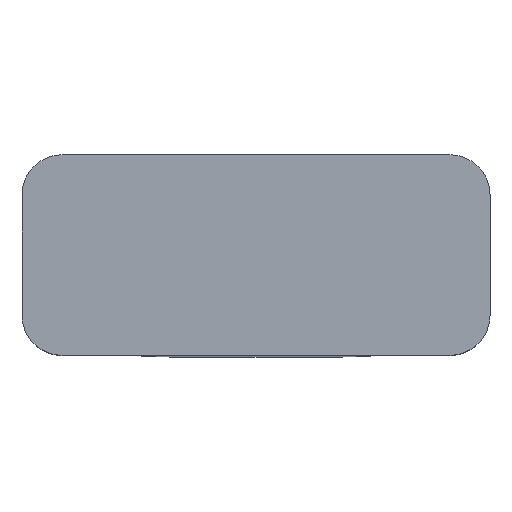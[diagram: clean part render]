
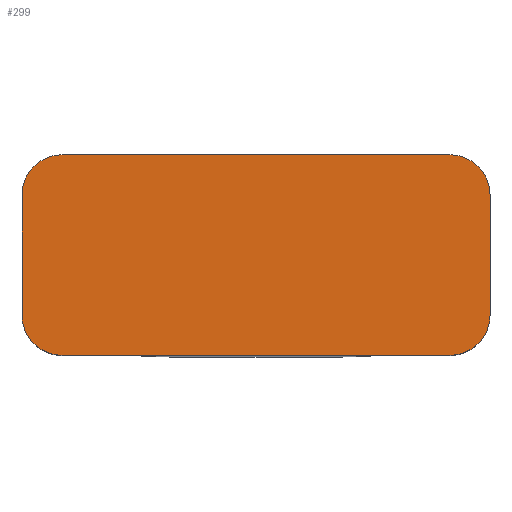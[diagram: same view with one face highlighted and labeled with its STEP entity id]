
A CAD part, top view. The second image highlights one B-rep face of the part: STEP entity #299.
In plain terms, the highlighted planar face has unit normal (0, 0, 1).
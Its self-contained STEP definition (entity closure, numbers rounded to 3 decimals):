
#21 = EDGE_CURVE('',#22,#24,#26,.T.);
#22 = VERTEX_POINT('',#23);
#23 = CARTESIAN_POINT('',(-15.3,-37.9,20.4));
#24 = VERTEX_POINT('',#25);
#25 = CARTESIAN_POINT('',(-21.1,-37.9,20.4));
#26 = SURFACE_CURVE('',#27,(#31,#43),.PCURVE_S1.);
#27 = LINE('',#28,#29);
#28 = CARTESIAN_POINT('',(-14.7,-37.9,20.4));
#29 = VECTOR('',#30,1.);
#30 = DIRECTION('',(-1.,0.,0.));
#31 = PCURVE('',#32,#37);
#32 = PLANE('',#33);
#33 = AXIS2_PLACEMENT_3D('',#34,#35,#36);
#34 = CARTESIAN_POINT('',(-14.7,-37.9,18.4));
#35 = DIRECTION('',(0.,1.,0.));
#36 = DIRECTION('',(0.,0.,1.));
#37 = DEFINITIONAL_REPRESENTATION('',(#38),#42);
#38 = LINE('',#39,#40);
#39 = CARTESIAN_POINT('',(2.,0.));
#40 = VECTOR('',#41,1.);
#41 = DIRECTION('',(0.,-1.));
#42 = ( GEOMETRIC_REPRESENTATION_CONTEXT(2) 
PARAMETRIC_REPRESENTATION_CONTEXT() REPRESENTATION_CONTEXT('2D SPACE',''
  ) );
#43 = PCURVE('',#44,#49);
#44 = PLANE('',#45);
#45 = AXIS2_PLACEMENT_3D('',#46,#47,#48);
#46 = CARTESIAN_POINT('',(-14.7,-37.9,20.4));
#47 = DIRECTION('',(0.,0.,1.));
#48 = DIRECTION('',(0.,1.,0.));
#49 = DEFINITIONAL_REPRESENTATION('',(#50),#54);
#50 = LINE('',#51,#52);
#51 = CARTESIAN_POINT('',(0.,0.));
#52 = VECTOR('',#53,1.);
#53 = DIRECTION('',(0.,1.));
#54 = ( GEOMETRIC_REPRESENTATION_CONTEXT(2) 
PARAMETRIC_REPRESENTATION_CONTEXT() REPRESENTATION_CONTEXT('2D SPACE',''
  ) );
#72 = CYLINDRICAL_SURFACE('',#73,0.6);
#73 = AXIS2_PLACEMENT_3D('',#74,#75,#76);
#74 = CARTESIAN_POINT('',(-15.3,-37.3,18.4));
#75 = DIRECTION('',(0.,0.,1.));
#76 = DIRECTION('',(0.,-1.,0.));
#288 = CYLINDRICAL_SURFACE('',#289,0.6);
#289 = AXIS2_PLACEMENT_3D('',#290,#291,#292);
#290 = CARTESIAN_POINT('',(-21.1,-37.3,18.4));
#291 = DIRECTION('',(0.,0.,1.));
#292 = DIRECTION('',(0.,-1.,0.));
#299 = ADVANCED_FACE('',(#300),#44,.T.);
#300 = FACE_BOUND('',#301,.T.);
#301 = EDGE_LOOP('',(#302,#303,#327,#355,#388,#416,#445,#473));
#302 = ORIENTED_EDGE('',*,*,#21,.F.);
#303 = ORIENTED_EDGE('',*,*,#304,.T.);
#304 = EDGE_CURVE('',#22,#305,#307,.T.);
#305 = VERTEX_POINT('',#306);
#306 = CARTESIAN_POINT('',(-14.7,-37.3,20.4));
#307 = SURFACE_CURVE('',#308,(#313,#320),.PCURVE_S1.);
#308 = CIRCLE('',#309,0.6);
#309 = AXIS2_PLACEMENT_3D('',#310,#311,#312);
#310 = CARTESIAN_POINT('',(-15.3,-37.3,20.4));
#311 = DIRECTION('',(-0.,0.,1.));
#312 = DIRECTION('',(1.,0.,0.));
#313 = PCURVE('',#44,#314);
#314 = DEFINITIONAL_REPRESENTATION('',(#315),#319);
#315 = CIRCLE('',#316,0.6);
#316 = AXIS2_PLACEMENT_2D('',#317,#318);
#317 = CARTESIAN_POINT('',(0.6,0.6));
#318 = DIRECTION('',(0.,-1.));
#319 = ( GEOMETRIC_REPRESENTATION_CONTEXT(2) 
PARAMETRIC_REPRESENTATION_CONTEXT() REPRESENTATION_CONTEXT('2D SPACE',''
  ) );
#320 = PCURVE('',#72,#321);
#321 = DEFINITIONAL_REPRESENTATION('',(#322),#326);
#322 = LINE('',#323,#324);
#323 = CARTESIAN_POINT('',(-4.712,2.));
#324 = VECTOR('',#325,1.);
#325 = DIRECTION('',(1.,0.));
#326 = ( GEOMETRIC_REPRESENTATION_CONTEXT(2) 
PARAMETRIC_REPRESENTATION_CONTEXT() REPRESENTATION_CONTEXT('2D SPACE',''
  ) );
#327 = ORIENTED_EDGE('',*,*,#328,.T.);
#328 = EDGE_CURVE('',#305,#329,#331,.T.);
#329 = VERTEX_POINT('',#330);
#330 = CARTESIAN_POINT('',(-14.7,-35.5,20.4));
#331 = SURFACE_CURVE('',#332,(#336,#343),.PCURVE_S1.);
#332 = LINE('',#333,#334);
#333 = CARTESIAN_POINT('',(-14.7,-37.9,20.4));
#334 = VECTOR('',#335,1.);
#335 = DIRECTION('',(0.,1.,0.));
#336 = PCURVE('',#44,#337);
#337 = DEFINITIONAL_REPRESENTATION('',(#338),#342);
#338 = LINE('',#339,#340);
#339 = CARTESIAN_POINT('',(0.,0.));
#340 = VECTOR('',#341,1.);
#341 = DIRECTION('',(1.,0.));
#342 = ( GEOMETRIC_REPRESENTATION_CONTEXT(2) 
PARAMETRIC_REPRESENTATION_CONTEXT() REPRESENTATION_CONTEXT('2D SPACE',''
  ) );
#343 = PCURVE('',#344,#349);
#344 = PLANE('',#345);
#345 = AXIS2_PLACEMENT_3D('',#346,#347,#348);
#346 = CARTESIAN_POINT('',(-14.7,-37.9,18.4));
#347 = DIRECTION('',(-1.,0.,0.));
#348 = DIRECTION('',(0.,0.,1.));
#349 = DEFINITIONAL_REPRESENTATION('',(#350),#354);
#350 = LINE('',#351,#352);
#351 = CARTESIAN_POINT('',(2.,0.));
#352 = VECTOR('',#353,1.);
#353 = DIRECTION('',(0.,1.));
#354 = ( GEOMETRIC_REPRESENTATION_CONTEXT(2) 
PARAMETRIC_REPRESENTATION_CONTEXT() REPRESENTATION_CONTEXT('2D SPACE',''
  ) );
#355 = ORIENTED_EDGE('',*,*,#356,.F.);
#356 = EDGE_CURVE('',#357,#329,#359,.T.);
#357 = VERTEX_POINT('',#358);
#358 = CARTESIAN_POINT('',(-15.3,-34.9,20.4));
#359 = SURFACE_CURVE('',#360,(#365,#376),.PCURVE_S1.);
#360 = CIRCLE('',#361,0.6);
#361 = AXIS2_PLACEMENT_3D('',#362,#363,#364);
#362 = CARTESIAN_POINT('',(-15.3,-35.5,20.4));
#363 = DIRECTION('',(0.,-0.,-1.));
#364 = DIRECTION('',(1.,0.,0.));
#365 = PCURVE('',#44,#366);
#366 = DEFINITIONAL_REPRESENTATION('',(#367),#375);
#367 = ( BOUNDED_CURVE() B_SPLINE_CURVE(2,(#368,#369,#370,#371,#372,#373
,#374),.UNSPECIFIED.,.T.,.F.) B_SPLINE_CURVE_WITH_KNOTS((1,2,2,2,2,1),(
    -2.094,0.,2.094,4.189,6.283,
8.378),.UNSPECIFIED.) CURVE() GEOMETRIC_REPRESENTATION_ITEM() 
RATIONAL_B_SPLINE_CURVE((1.,0.5,1.,0.5,1.,0.5,1.)) REPRESENTATION_ITEM(
  '') );
#368 = CARTESIAN_POINT('',(2.4,0.));
#369 = CARTESIAN_POINT('',(1.361,0.));
#370 = CARTESIAN_POINT('',(1.88,0.9));
#371 = CARTESIAN_POINT('',(2.4,1.8));
#372 = CARTESIAN_POINT('',(2.92,0.9));
#373 = CARTESIAN_POINT('',(3.439,0.));
#374 = CARTESIAN_POINT('',(2.4,0.));
#375 = ( GEOMETRIC_REPRESENTATION_CONTEXT(2) 
PARAMETRIC_REPRESENTATION_CONTEXT() REPRESENTATION_CONTEXT('2D SPACE',''
  ) );
#376 = PCURVE('',#377,#382);
#377 = CYLINDRICAL_SURFACE('',#378,0.6);
#378 = AXIS2_PLACEMENT_3D('',#379,#380,#381);
#379 = CARTESIAN_POINT('',(-15.3,-35.5,18.4));
#380 = DIRECTION('',(0.,0.,1.));
#381 = DIRECTION('',(0.,1.,0.));
#382 = DEFINITIONAL_REPRESENTATION('',(#383),#387);
#383 = LINE('',#384,#385);
#384 = CARTESIAN_POINT('',(4.712,2.));
#385 = VECTOR('',#386,1.);
#386 = DIRECTION('',(-1.,0.));
#387 = ( GEOMETRIC_REPRESENTATION_CONTEXT(2) 
PARAMETRIC_REPRESENTATION_CONTEXT() REPRESENTATION_CONTEXT('2D SPACE',''
  ) );
#388 = ORIENTED_EDGE('',*,*,#389,.T.);
#389 = EDGE_CURVE('',#357,#390,#392,.T.);
#390 = VERTEX_POINT('',#391);
#391 = CARTESIAN_POINT('',(-21.1,-34.9,20.4));
#392 = SURFACE_CURVE('',#393,(#397,#404),.PCURVE_S1.);
#393 = LINE('',#394,#395);
#394 = CARTESIAN_POINT('',(-14.7,-34.9,20.4));
#395 = VECTOR('',#396,1.);
#396 = DIRECTION('',(-1.,0.,0.));
#397 = PCURVE('',#44,#398);
#398 = DEFINITIONAL_REPRESENTATION('',(#399),#403);
#399 = LINE('',#400,#401);
#400 = CARTESIAN_POINT('',(3.,0.));
#401 = VECTOR('',#402,1.);
#402 = DIRECTION('',(0.,1.));
#403 = ( GEOMETRIC_REPRESENTATION_CONTEXT(2) 
PARAMETRIC_REPRESENTATION_CONTEXT() REPRESENTATION_CONTEXT('2D SPACE',''
  ) );
#404 = PCURVE('',#405,#410);
#405 = PLANE('',#406);
#406 = AXIS2_PLACEMENT_3D('',#407,#408,#409);
#407 = CARTESIAN_POINT('',(-14.7,-34.9,18.4));
#408 = DIRECTION('',(0.,1.,0.));
#409 = DIRECTION('',(0.,0.,1.));
#410 = DEFINITIONAL_REPRESENTATION('',(#411),#415);
#411 = LINE('',#412,#413);
#412 = CARTESIAN_POINT('',(2.,0.));
#413 = VECTOR('',#414,1.);
#414 = DIRECTION('',(0.,-1.));
#415 = ( GEOMETRIC_REPRESENTATION_CONTEXT(2) 
PARAMETRIC_REPRESENTATION_CONTEXT() REPRESENTATION_CONTEXT('2D SPACE',''
  ) );
#416 = ORIENTED_EDGE('',*,*,#417,.T.);
#417 = EDGE_CURVE('',#390,#418,#420,.T.);
#418 = VERTEX_POINT('',#419);
#419 = CARTESIAN_POINT('',(-21.7,-35.5,20.4));
#420 = SURFACE_CURVE('',#421,(#426,#433),.PCURVE_S1.);
#421 = CIRCLE('',#422,0.6);
#422 = AXIS2_PLACEMENT_3D('',#423,#424,#425);
#423 = CARTESIAN_POINT('',(-21.1,-35.5,20.4));
#424 = DIRECTION('',(-0.,0.,1.));
#425 = DIRECTION('',(1.,0.,0.));
#426 = PCURVE('',#44,#427);
#427 = DEFINITIONAL_REPRESENTATION('',(#428),#432);
#428 = CIRCLE('',#429,0.6);
#429 = AXIS2_PLACEMENT_2D('',#430,#431);
#430 = CARTESIAN_POINT('',(2.4,6.4));
#431 = DIRECTION('',(0.,-1.));
#432 = ( GEOMETRIC_REPRESENTATION_CONTEXT(2) 
PARAMETRIC_REPRESENTATION_CONTEXT() REPRESENTATION_CONTEXT('2D SPACE',''
  ) );
#433 = PCURVE('',#434,#439);
#434 = CYLINDRICAL_SURFACE('',#435,0.6);
#435 = AXIS2_PLACEMENT_3D('',#436,#437,#438);
#436 = CARTESIAN_POINT('',(-21.1,-35.5,18.4));
#437 = DIRECTION('',(0.,0.,1.));
#438 = DIRECTION('',(0.,1.,0.));
#439 = DEFINITIONAL_REPRESENTATION('',(#440),#444);
#440 = LINE('',#441,#442);
#441 = CARTESIAN_POINT('',(-1.571,2.));
#442 = VECTOR('',#443,1.);
#443 = DIRECTION('',(1.,0.));
#444 = ( GEOMETRIC_REPRESENTATION_CONTEXT(2) 
PARAMETRIC_REPRESENTATION_CONTEXT() REPRESENTATION_CONTEXT('2D SPACE',''
  ) );
#445 = ORIENTED_EDGE('',*,*,#446,.F.);
#446 = EDGE_CURVE('',#447,#418,#449,.T.);
#447 = VERTEX_POINT('',#448);
#448 = CARTESIAN_POINT('',(-21.7,-37.3,20.4));
#449 = SURFACE_CURVE('',#450,(#454,#461),.PCURVE_S1.);
#450 = LINE('',#451,#452);
#451 = CARTESIAN_POINT('',(-21.7,-37.9,20.4));
#452 = VECTOR('',#453,1.);
#453 = DIRECTION('',(0.,1.,0.));
#454 = PCURVE('',#44,#455);
#455 = DEFINITIONAL_REPRESENTATION('',(#456),#460);
#456 = LINE('',#457,#458);
#457 = CARTESIAN_POINT('',(0.,7.));
#458 = VECTOR('',#459,1.);
#459 = DIRECTION('',(1.,0.));
#460 = ( GEOMETRIC_REPRESENTATION_CONTEXT(2) 
PARAMETRIC_REPRESENTATION_CONTEXT() REPRESENTATION_CONTEXT('2D SPACE',''
  ) );
#461 = PCURVE('',#462,#467);
#462 = PLANE('',#463);
#463 = AXIS2_PLACEMENT_3D('',#464,#465,#466);
#464 = CARTESIAN_POINT('',(-21.7,-37.9,18.4));
#465 = DIRECTION('',(-1.,0.,0.));
#466 = DIRECTION('',(0.,0.,1.));
#467 = DEFINITIONAL_REPRESENTATION('',(#468),#472);
#468 = LINE('',#469,#470);
#469 = CARTESIAN_POINT('',(2.,0.));
#470 = VECTOR('',#471,1.);
#471 = DIRECTION('',(0.,1.));
#472 = ( GEOMETRIC_REPRESENTATION_CONTEXT(2) 
PARAMETRIC_REPRESENTATION_CONTEXT() REPRESENTATION_CONTEXT('2D SPACE',''
  ) );
#473 = ORIENTED_EDGE('',*,*,#474,.F.);
#474 = EDGE_CURVE('',#24,#447,#475,.T.);
#475 = SURFACE_CURVE('',#476,(#481,#492),.PCURVE_S1.);
#476 = CIRCLE('',#477,0.6);
#477 = AXIS2_PLACEMENT_3D('',#478,#479,#480);
#478 = CARTESIAN_POINT('',(-21.1,-37.3,20.4));
#479 = DIRECTION('',(0.,-0.,-1.));
#480 = DIRECTION('',(1.,0.,0.));
#481 = PCURVE('',#44,#482);
#482 = DEFINITIONAL_REPRESENTATION('',(#483),#491);
#483 = ( BOUNDED_CURVE() B_SPLINE_CURVE(2,(#484,#485,#486,#487,#488,#489
,#490),.UNSPECIFIED.,.T.,.F.) B_SPLINE_CURVE_WITH_KNOTS((1,2,2,2,2,1),(
    -2.094,0.,2.094,4.189,6.283,
8.378),.UNSPECIFIED.) CURVE() GEOMETRIC_REPRESENTATION_ITEM() 
RATIONAL_B_SPLINE_CURVE((1.,0.5,1.,0.5,1.,0.5,1.)) REPRESENTATION_ITEM(
  '') );
#484 = CARTESIAN_POINT('',(0.6,5.8));
#485 = CARTESIAN_POINT('',(-0.439,5.8));
#486 = CARTESIAN_POINT('',(0.08,6.7));
#487 = CARTESIAN_POINT('',(0.6,7.6));
#488 = CARTESIAN_POINT('',(1.12,6.7));
#489 = CARTESIAN_POINT('',(1.639,5.8));
#490 = CARTESIAN_POINT('',(0.6,5.8));
#491 = ( GEOMETRIC_REPRESENTATION_CONTEXT(2) 
PARAMETRIC_REPRESENTATION_CONTEXT() REPRESENTATION_CONTEXT('2D SPACE',''
  ) );
#492 = PCURVE('',#288,#493);
#493 = DEFINITIONAL_REPRESENTATION('',(#494),#498);
#494 = LINE('',#495,#496);
#495 = CARTESIAN_POINT('',(1.571,2.));
#496 = VECTOR('',#497,1.);
#497 = DIRECTION('',(-1.,0.));
#498 = ( GEOMETRIC_REPRESENTATION_CONTEXT(2) 
PARAMETRIC_REPRESENTATION_CONTEXT() REPRESENTATION_CONTEXT('2D SPACE',''
  ) );
